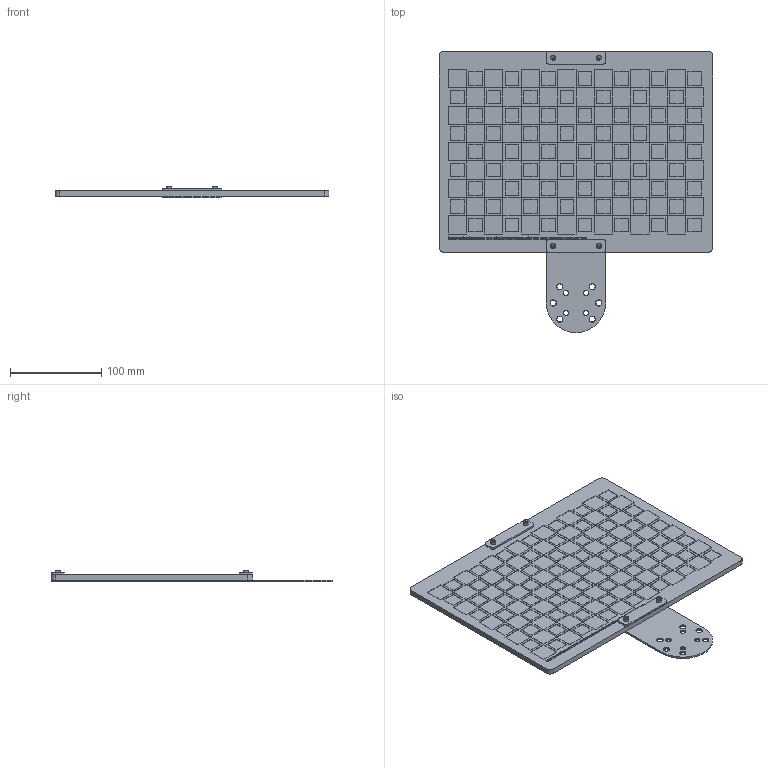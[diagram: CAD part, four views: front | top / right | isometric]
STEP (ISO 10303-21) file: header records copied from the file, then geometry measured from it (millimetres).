
FILE_DESCRIPTION(/* description */ ('STEP AP242','CAx-IF Rec.Pracs.---Representation and Presentation of Product Manufacturing Information (PMI)---4.0---2014-10-13','CAx-IF Rec.Pracs.---3D Tessellated Geometry---0.4---2014-09-14','2;1'),/* implementation_level */ '2;1');
FILE_NAME(/* name */ '667a3b9bb0b11d6265c3cff5',/* time_stamp */ '2024-06-25T03:38:06Z',/* author */ (''),/* organization */ (''),/* preprocessor_version */ 'ST-DEVELOPER v20',/* originating_system */ ' ',/* authorisation */ ' ');
FILE_SCHEMA (('AP242_MANAGED_MODEL_BASED_3D_ENGINEERING_MIM_LF { 1 0 10303 442 1 1 4 }'));
Products named in the file (5): Calibration assembly; Hex socket head cap screw M3x0.50 x 10; 3DCAM-CALB-2-1.0; 3DCAM-CALB-3-1.0; 3DCAM-CALB-1-1.0
Assembly tree (8 placements, depth 2):
  Calibration assembly
    Hex socket head cap screw M3x0.50 x 10  x4
    3DCAM-CALB-2-1.0
    3DCAM-CALB-3-1.0  x2
    3DCAM-CALB-1-1.0
Bounding box: 300 x 308 x 13 mm (x, y, z)
Volume: 429803.2 mm3; surface area: 188264.6 mm2
Topology: 8 solids, 8 shells, 2423 faces, 6290 edges, 4072 vertices
Faces by surface type: plane 1452, bspline 882, cylinder 45, cone 32, torus 12
Full cylindrical faces by diameter (mm): 2.639 x4, 3 x4, 3.2 x8, 5.3 x4, 5.5 x4, 6.4 x6
Entity records: 73793 total; most frequent: CARTESIAN_POINT 22056, ORIENTED_EDGE 12102, DIRECTION 7322, EDGE_CURVE 6051, LINE 4190, VECTOR 4190, VERTEX_POINT 3952, FACE_BOUND 2617
